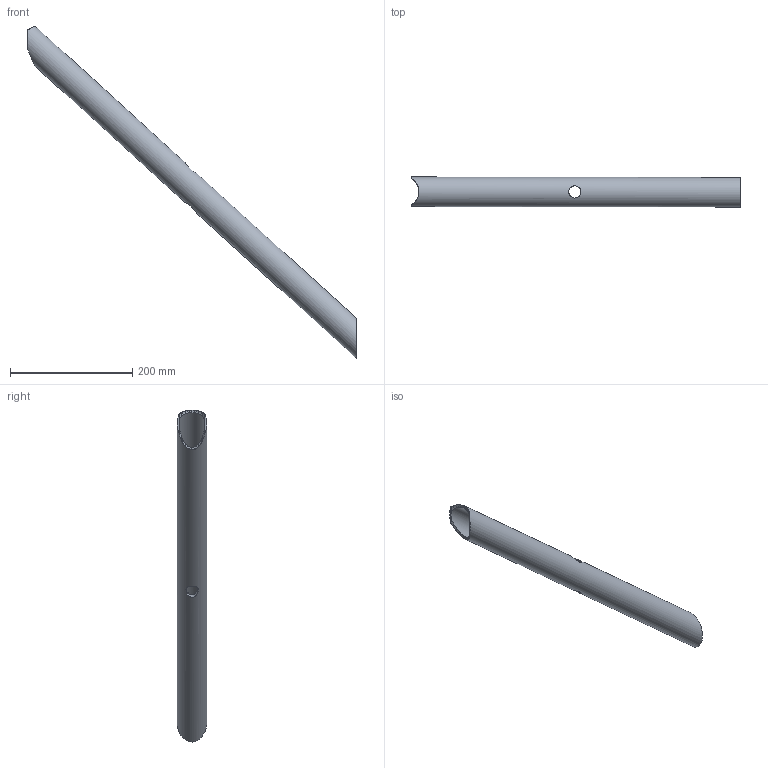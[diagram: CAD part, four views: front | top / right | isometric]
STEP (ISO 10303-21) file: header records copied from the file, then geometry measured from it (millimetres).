
FILE_DESCRIPTION(('Open CASCADE Model'),'2;1');
FILE_NAME('Open CASCADE Shape Model','2016-07-12T10:39:26',('Author'),( 'Open CASCADE'),'Open CASCADE STEP processor 6.8','Open CASCADE 6.8' ,'Unknown');
FILE_SCHEMA(('AUTOMOTIVE_DESIGN_CC2 { 1 2 10303 214 -1 1 5 4 }'));
Length unit declared in the file: millimetre
Products named in the file (1): Open CASCADE STEP translator 6.8 1
Bounding box: 536.09 x 48.3 x 542.45 mm (x, y, z)
Volume: 322430.2 mm3; surface area: 203422.3 mm2
Topology: 1 solids, 1 shells, 35 faces, 106 edges, 72 vertices
Faces by surface type: plane 31, cylinder 4
Full cylindrical faces by diameter (mm): 20 x2, 41.9 x1, 48.3 x1
Entity records: 4162 total; most frequent: CARTESIAN_POINT 2144, DIRECTION 358, ORIENTED_EDGE 212, PCURVE 212, DEFINITIONAL_REPRESENTATION 212, ELLIPSE 128, EDGE_CURVE 106, SURFACE_CURVE 102
